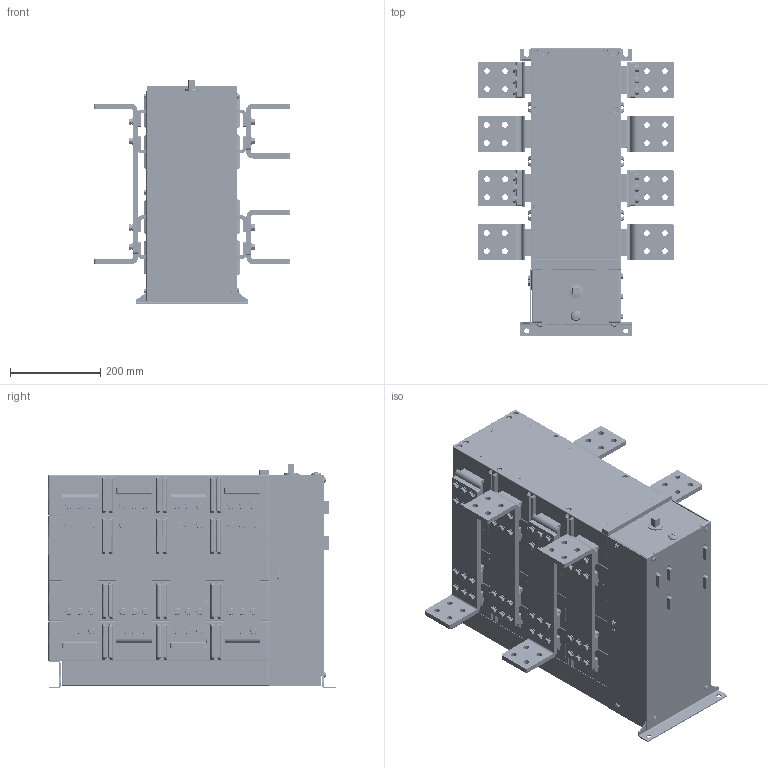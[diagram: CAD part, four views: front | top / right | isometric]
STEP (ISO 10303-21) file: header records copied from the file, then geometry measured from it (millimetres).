
FILE_DESCRIPTION((''),'2;1');
FILE_NAME('NH40-2500-4SZ_ASM','2020-11-04T',('shift'),(''),'CREO PARAMETRIC BY PTC INC, 2014500','CREO PARAMETRIC BY PTC INC, 2014500','');
FILE_SCHEMA(('AUTOMOTIVE_DESIGN { 1 0 10303 214 1 1 1 1 }'));
Products named in the file (42): MSBR5_1_1_2_1_1_1; MSBR18_1_1_1_1_1_1; MSBR6_1_1_2_1_1_2; MSBR15_1_1_2_1_1_1; MSBR4_1_1_2_1_1_2; MSBR16_1_1_2_1_1_1; MSBR2_1_1_2_1_1_1; ADMI0FB0CDB70BN3_ASM_1_ASM_1_AS_ASM; 1000A_ASM_1_ASM_1_ASM_1_ASM_1_A_ASM; 1000A_ASM_ASM_1_ASM_1_ASM_1_ASM_ASM; SHANGGAI1_7_1_1_1; SHNGGAIZI_6_1_1_3; SHANGGAI3_4_1_1_1; TONGJIANANZHUANG_1_2_1_1; ANZHUANGJIAO_1_1_1_1; DIJIAO_1_1_1_1; SHANGBAN_2_1_1_1; CEBAN_3_1_1_1; CEBAN2_2_1_1_1; HENGLIANG_1_1_1_1; HONGZHISHI_1_1_1_1; YAOSHI_1_1_1_1; JIEXIANDUANZI_1_1_1_1; CEBANLUOSI_1_1_1_1; TONGJIANGUDNGLUOSI_1_1_1_1; NH40-2000-4SZ_ASM_10_ASM_1_ASM__ASM; NH40-2000-4SZ_ASM_1_ASM_1_ASM_2_ASM; 11_3_4; 13_2_2; NH40-2500-4SZ__ASM_1_ASM_2_ASM; 2_2; 4_2; 7_2; 8_1; 9_2; 10_1; 14_1; 16_2; 17_1; 18_1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
Assembly tree (182 placements, depth 9):
  NH40-2500-4SZ_ASM
    NH40-2500-4SZ_ASM_2_ASM
      NH40-2500-4SZ__ASM_1_ASM_2_ASM
        NH40-2000-4SZ_ASM_1_ASM_1_ASM_2_ASM
          NH40-2000-4SZ_ASM_10_ASM_1_ASM__ASM
            1000A_ASM_ASM_1_ASM_1_ASM_1_ASM_ASM
              1000A_ASM_1_ASM_1_ASM_1_ASM_1_A_ASM
                ADMI0FB0CDB70BN3_ASM_1_ASM_1_AS_ASM
                  MSBR5_1_1_2_1_1_1
                  MSBR18_1_1_1_1_1_1
                  MSBR6_1_1_2_1_1_2
                  MSBR15_1_1_2_1_1_1
                  MSBR4_1_1_2_1_1_2
                  MSBR16_1_1_2_1_1_1
                  MSBR2_1_1_2_1_1_1
            SHANGGAI1_7_1_1_1
            SHNGGAIZI_6_1_1_3  x2
            SHANGGAI3_4_1_1_1
            TONGJIANANZHUANG_1_2_1_1  x32
            ANZHUANGJIAO_1_1_1_1
            DIJIAO_1_1_1_1
            SHANGBAN_2_1_1_1
            CEBAN_3_1_1_1
            CEBAN2_2_1_1_1
            HENGLIANG_1_1_1_1
            HONGZHISHI_1_1_1_1
            YAOSHI_1_1_1_1
            JIEXIANDUANZI_1_1_1_1  x5
            CEBANLUOSI_1_1_1_1  x10
            TONGJIANGUDNGLUOSI_1_1_1_1  x48
        11_3_4
        13_2_2
      2_2  x2
      4_2  x2
      7_2
      8_1
      9_2
      10_1  x48
      14_1
      16_2
      17_1
      18_1
Bounding box: 435.7 x 640.23 x 498.68 mm (x, y, z)
Volume: 50539074 mm3; surface area: 4750394.5 mm2
Topology: 175 solids, 179 shells, 8220 faces, 20370 edges, 13049 vertices
Faces by surface type: plane 3912, cylinder 3330, bspline 513, cone 222, torus 133, sphere 108, extrusion 2
Entity records: 188543 total; most frequent: CARTESIAN_POINT 58618, ORIENTED_EDGE 21266, DIRECTION 19657, EDGE_CURVE 10633, PRESENTATION_STYLE_ASSIGNMENT 8407, STYLED_ITEM 8407, CURVE_STYLE 7944, VERTEX_POINT 6735
